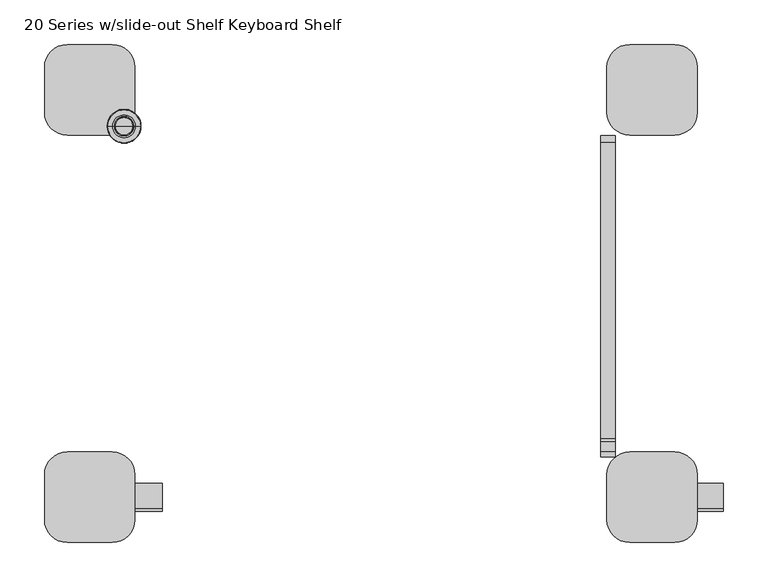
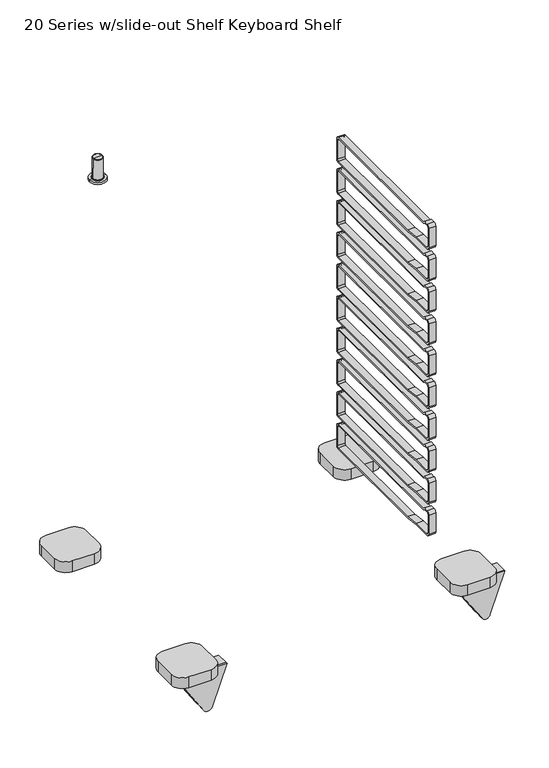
"""IFC4 building model written with IfcOpenShell, lengths in millimetres: furniture geometry, HermanMiller_Carts_CTT_StorageandTechnologyCart : 20 Series w/slide-out Shelf Keyboard Shelf."""

from ifc_helpers import new_model, si_unit, point, frame, frame_2d, origin, place, context, project, spatial, polyline, circle_curve, ellipse_curve, trimmed, segment, composite_curve, outline, extrude, source, transform, mapped, element, save
from ifc_brep_helpers import plane_surface, cylinder_surface, revolved_surface, advanced_brep


def furniture_20_series_w_slide_out_shelf_keyboard_shelf_f1be6787(model_context):
    return source(origin(), model_context, "Body", "SolidModel", [
        advanced_brep(
        [(101.600003, 17.1449995, 147.6537872), (-12.7000004, 17.1449995, 147.6537872), (49.8568056, 17.1449995, 52.1364958), (67.594555, 17.1449995, 54.1932208), (101.600003, 20.1029431, 147.6537872), (67.594555, 20.1029431, 54.1932208), (49.8568056, 20.1029431, 52.1364958), (-12.7000004, 20.1029431, 147.6537872)],
        [
            (0, 1),
            (1, 2),
            (2, 3, circle_curve(frame((58.2105388, 17.1449995, 57.6075771), z_axis=(0.0, -1.0, 0.0), x_axis=(1.0, 0.0, 0.0)), 9.9858695)),
            (3, 0),
            (4, 5),
            (5, 6, circle_curve(frame((58.2105388, 20.1029431, 57.6075771), z_axis=(0.0, 1.0, 0.0), x_axis=(1.0, 0.0, 0.0)), 9.9858695)),
            (6, 7),
            (7, 4),
            (0, 4),
            (7, 1),
            (6, 2),
            (5, 3),
        ],
        [
            plane_surface(frame((101.600003, 17.1449995, 147.6537872), z_axis=(0.0, -1.0, 0.0), x_axis=(-1.0, 0.0, 0.0))),
            plane_surface(frame((101.600003, 20.1029431, 147.6537872), z_axis=(0.0, 1.0, 0.0), x_axis=(1.0, 0.0, 0.0))),
            plane_surface(frame((101.600003, 17.1449995, 147.6537872), z_axis=(0.0, 0.0, 1.0), x_axis=(0.0, 1.0, 0.0))),
            plane_surface(frame((-12.7000004, 17.1449995, 147.6537872), z_axis=(-0.8365554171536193, 0.0, -0.5478823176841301), x_axis=(0.0, 1.0, 0.0))),
            cylinder_surface(frame((58.2105388, 20.1029431, 57.6075771), z_axis=(0.0, -1.0, 0.0), x_axis=(1.0, 0.0, 0.0)), 9.9858695),
            plane_surface(frame((67.594555, 17.1449995, 54.1932208), z_axis=(0.9397295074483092, 0.0, -0.34191878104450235), x_axis=(0.0, 1.0, 0.0))),
        ],
        [
            (0, [[1, 2, 3, 4]]),
            (1, [[5, 6, 7, 8]]),
            (2, [[-1, 9, -8, 10]]),
            (3, [[-2, -10, -7, 11]]),
            (4, [[-3, -11, -6, 12]]),
            (5, [[-4, -12, -5, -9]]),
        ],
    ),
        advanced_brep(
        [(731.7848239, 17.1449995, 147.6537872), (617.4848205, 17.1449995, 147.6537872), (680.0416266, 17.1449995, 52.1364958), (697.7793759, 17.1449995, 54.1932208), (731.7848239, 20.1029431, 147.6537872), (697.7793759, 20.1029431, 54.1932208), (680.0416266, 20.1029431, 52.1364958), (617.4848205, 20.1029431, 147.6537872)],
        [
            (0, 1),
            (1, 2),
            (2, 3, circle_curve(frame((688.3953597, 17.1449995, 57.6075771), z_axis=(0.0, -1.0, 0.0), x_axis=(1.0, 0.0, 0.0)), 9.9858695)),
            (3, 0),
            (4, 5),
            (5, 6, circle_curve(frame((688.3953597, 20.1029431, 57.6075771), z_axis=(0.0, 1.0, 0.0), x_axis=(1.0, 0.0, 0.0)), 9.9858695)),
            (6, 7),
            (7, 4),
            (0, 4),
            (7, 1),
            (6, 2),
            (5, 3),
        ],
        [
            plane_surface(frame((101.600003, 17.1449995, 147.6537872), z_axis=(0.0, -1.0, 0.0), x_axis=(-1.0, 0.0, 0.0))),
            plane_surface(frame((101.600003, 20.1029431, 147.6537872), z_axis=(0.0, 1.0, 0.0), x_axis=(1.0, 0.0, 0.0))),
            plane_surface(frame((731.7848239, 17.1449995, 147.6537872), z_axis=(0.0, 0.0, 1.0), x_axis=(0.0, 1.0, 0.0))),
            plane_surface(frame((617.4848205, 17.1449995, 147.6537872), z_axis=(-0.8365554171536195, 0.0, -0.5478823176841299), x_axis=(0.0, 1.0, 0.0))),
            cylinder_surface(frame((688.3953597, -28.5750023, 57.6075771), z_axis=(0.0, -1.0, 0.0), x_axis=(1.0, 0.0, 0.0)), 9.9858695),
            plane_surface(frame((697.7793759, 17.1449995, 54.1932208), z_axis=(0.9397295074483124, 0.0, -0.3419187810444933), x_axis=(0.0, 1.0, 0.0))),
        ],
        [
            (0, [[1, 2, 3, 4]]),
            (1, [[5, 6, 7, 8]]),
            (2, [[-1, 9, -8, 10]]),
            (3, [[-2, -10, -7, 11]]),
            (4, [[-3, -11, -6, 12]]),
            (5, [[-4, -12, -5, -9]]),
        ],
    ),
        advanced_brep(
        [(49.8568056, 45.7200018, 52.1364958), (67.594555, 45.7200018, 54.1932208), (100.6758289, 45.7200018, 145.1137872), (-11.036487, 45.7200018, 145.1137872), (101.600003, 48.6779454, 147.6537872), (67.594555, 48.6779454, 54.1932208), (49.8568056, 48.6779454, 52.1364958), (-12.7000004, 48.6779454, 147.6537872), (-12.7000004, 20.3200011, 147.6537872), (101.600003, 20.3200011, 147.6537872), (-11.036487, 20.3200011, 145.1137872), (100.6758289, 20.3200011, 145.1137872)],
        [
            (0, 1, circle_curve(frame((58.2105388, 45.7200018, 57.6075771), z_axis=(0.0, -1.0, 0.0), x_axis=(1.0, 0.0, 0.0)), 9.9858695)),
            (1, 2),
            (2, 3),
            (3, 0),
            (4, 5),
            (5, 6, circle_curve(frame((58.2105388, 48.6779454, 57.6075771), z_axis=(0.0, 1.0, 0.0), x_axis=(1.0, 0.0, 0.0)), 9.9858695)),
            (6, 7),
            (7, 4),
            (7, 8),
            (8, 9),
            (9, 4),
            (6, 0),
            (3, 10),
            (10, 8),
            (5, 1),
            (9, 11),
            (11, 2),
            (10, 11),
        ],
        [
            plane_surface(frame((101.600003, 45.7200018, 147.6537872), z_axis=(0.0, -1.0, 0.0), x_axis=(-1.0, 0.0, 0.0))),
            plane_surface(frame((101.600003, 48.6779454, 147.6537872), z_axis=(0.0, 1.0, 0.0), x_axis=(1.0, 0.0, 0.0))),
            plane_surface(frame((101.600003, 45.7200018, 147.6537872), z_axis=(0.0, 0.0, 1.0), x_axis=(0.0, 1.0, 0.0))),
            plane_surface(frame((-12.7000004, 45.7200018, 147.6537872), z_axis=(-0.8365554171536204, 0.0, -0.5478823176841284), x_axis=(0.0, 1.0, 0.0))),
            cylinder_surface(frame((58.2105388, 48.6779454, 57.6075771), z_axis=(0.0, -1.0, 0.0), x_axis=(1.0, 0.0, 0.0)), 9.9858695),
            plane_surface(frame((67.594555, 45.7200018, 54.1932208), z_axis=(0.9397295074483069, 0.0, -0.34191878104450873), x_axis=(0.0, 1.0, 0.0))),
            plane_surface(frame((101.600003, 20.3200011, 147.6537872), z_axis=(0.0, -1.0, 0.0), x_axis=(-1.0, 0.0, 0.0))),
            plane_surface(frame((-11.036487, 20.3200011, 145.1137872), z_axis=(0.0, 0.0, -1.0), x_axis=(0.0, 1.0, 0.0))),
        ],
        [
            (0, [[1, 2, 3, 4]]),
            (1, [[5, 6, 7, 8]]),
            (2, [[-8, 9, 10, 11]]),
            (3, [[-9, -7, 12, -4, 13, 14]]),
            (4, [[-1, -12, -6, 15]]),
            (5, [[-5, -11, 16, 17, -2, -15]]),
            (6, [[-10, -14, 18, -16]]),
            (7, [[-18, -13, -3, -17]]),
        ],
    ),
        advanced_brep(
        [(680.0416266, 45.7200018, 52.1364958), (697.7793759, 45.7200018, 54.1932208), (730.8606498, 45.7200018, 145.1137872), (619.1483339, 45.7200018, 145.1137872), (731.7848239, 48.6779454, 147.6537872), (697.7793759, 48.6779454, 54.1932208), (680.0416266, 48.6779454, 52.1364958), (617.4848205, 48.6779454, 147.6537872), (617.4848205, 20.3200011, 147.6537872), (731.7848239, 20.3200011, 147.6537872), (619.1483339, 20.3200011, 145.1137872), (730.8606498, 20.3200011, 145.1137872)],
        [
            (0, 1, circle_curve(frame((688.3953597, 45.7200018, 57.6075771), z_axis=(0.0, -1.0, 0.0), x_axis=(1.0, 0.0, 0.0)), 9.9858695)),
            (1, 2),
            (2, 3),
            (3, 0),
            (4, 5),
            (5, 6, circle_curve(frame((688.3953597, 48.6779454, 57.6075771), z_axis=(0.0, 1.0, 0.0), x_axis=(1.0, 0.0, 0.0)), 9.9858695)),
            (6, 7),
            (7, 4),
            (7, 8),
            (8, 9),
            (9, 4),
            (6, 0),
            (3, 10),
            (10, 8),
            (5, 1),
            (9, 11),
            (11, 2),
            (10, 11),
        ],
        [
            plane_surface(frame((101.600003, 45.7200018, 147.6537872), z_axis=(0.0, -1.0, 0.0), x_axis=(-1.0, 0.0, 0.0))),
            plane_surface(frame((101.600003, 48.6779454, 147.6537872), z_axis=(0.0, 1.0, 0.0), x_axis=(1.0, 0.0, 0.0))),
            plane_surface(frame((731.7848239, 45.7200018, 147.6537872), z_axis=(0.0, 0.0, 1.0), x_axis=(0.0, 1.0, 0.0))),
            plane_surface(frame((617.4848205, 45.7200018, 147.6537872), z_axis=(-0.8365554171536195, 0.0, -0.5478823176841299), x_axis=(0.0, 1.0, 0.0))),
            cylinder_surface(frame((688.3953597, 0.0, 57.6075771), z_axis=(0.0, -1.0, 0.0), x_axis=(1.0, 0.0, 0.0)), 9.9858695),
            plane_surface(frame((697.7793759, 45.7200018, 54.1932208), z_axis=(0.9397295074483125, 0.0, -0.3419187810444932), x_axis=(0.0, 1.0, 0.0))),
            plane_surface(frame((101.600003, 20.3200011, 147.6537872), z_axis=(0.0, -1.0, 0.0), x_axis=(-1.0, 0.0, 0.0))),
            plane_surface(frame((619.1483339, 20.3200011, 145.1137872), z_axis=(0.0, 0.0, -1.0), x_axis=(0.0, 1.0, 0.0))),
        ],
        [
            (0, [[1, 2, 3, 4]]),
            (1, [[5, 6, 7, 8]]),
            (2, [[-8, 9, 10, 11]]),
            (3, [[-9, -7, 12, -4, 13, 14]]),
            (4, [[-1, -12, -6, 15]]),
            (5, [[-5, -11, 16, 17, -2, -15]]),
            (6, [[-10, -14, 18, -16]]),
            (7, [[-18, -13, -3, -17]]),
        ],
    ),
        extrude(outline(composite_curve([segment(trimmed(circle_curve(frame_2d((432.0829157, 288.6580583)), 7.0967816), [point((432.0829157, 295.7548399))], [point((439.1796973, 288.6580583))], False, "CARTESIAN"), True, "CONTINUOUS"), segment(polyline([(439.1796973, 288.6580583), (439.1796973, 241.5674195)]), True, "CONTINUOUS"), segment(trimmed(circle_curve(frame_2d((432.8296973, 241.5674195)), 6.35), [point((439.1796973, 241.5674195))], [point((432.8296973, 235.2174195))], False, "CARTESIAN"), True, "CONTINUOUS"), segment(polyline([(432.8296973, 235.2174195), (160.5389836, 235.2174195), (125.9538762, 240.0780421), (84.6788762, 240.0780421)]), True, "CONTINUOUS"), segment(trimmed(circle_curve(frame_2d((84.6788762, 246.4280421)), 6.35), [point((84.6788762, 240.0780421))], [point((78.3288762, 246.4280421))], False, "CARTESIAN"), True, "CONTINUOUS"), segment(polyline([(78.3288762, 246.4280421), (78.3288762, 292.452837)]), True, "CONTINUOUS"), segment(trimmed(circle_curve(frame_2d((84.6788762, 292.452837)), 6.35), [point((78.3288762, 292.452837))], [point((84.6788762, 298.802837))], False, "CARTESIAN"), True, "CONTINUOUS"), segment(polyline([(84.6788762, 298.802837), (95.8548777, 298.802837), (98.9028748, 295.7548399), (432.0829157, 295.7548399)]), True, "CONTINUOUS")], self_intersect=False), holes=[composite_curve([segment(polyline([(98.9028748, 291.7670382), (93.351533, 294.8150353), (86.3017102, 294.8150353)]), True, "CONTINUOUS"), segment(trimmed(circle_curve(frame_2d((86.3017102, 290.8300031)), 3.9850323), [point((86.3017102, 294.8150353))], [point((82.3166779, 290.8300031))], True, "CARTESIAN"), True, "CONTINUOUS"), segment(polyline([(82.3166779, 290.8300031), (82.3166779, 248.1093011)]), True, "CONTINUOUS"), segment(trimmed(circle_curve(frame_2d((86.3601352, 248.1093011)), 4.0434573), [point((82.3166779, 248.1093011))], [point((86.3601352, 244.0658438))], True, "CARTESIAN"), True, "CONTINUOUS"), segment(polyline([(86.3601352, 244.0658438), (126.2327291, 244.0658438), (160.8178365, 239.2052211), (431.735191, 239.2052211)]), True, "CONTINUOUS"), segment(trimmed(circle_curve(frame_2d((431.735191, 242.6619258)), 3.4567047), [point((431.735191, 239.2052211))], [point((435.1918957, 242.6619258))], True, "CARTESIAN"), True, "CONTINUOUS"), segment(polyline([(435.1918957, 242.6619258), (435.1918957, 287.9663635)]), True, "CONTINUOUS"), segment(trimmed(circle_curve(frame_2d((431.3912209, 287.9663635)), 3.8006747), [point((435.1918957, 287.9663635))], [point((431.3912209, 291.7670382))], True, "CARTESIAN"), True, "CONTINUOUS"), segment(polyline([(431.3912209, 291.7670382), (98.9028748, 291.7670382)]), True, "CONTINUOUS")], self_intersect=False)]), frame((594.2224574, 0.0, 0.0), z_axis=(1.0, 0.0, 0.0), x_axis=(0.0, 1.0, 0.0)), (0.0, 0.0, 1.0), 15.9147989),
        extrude(outline(composite_curve([segment(polyline([(160.5389836, 311.4174013), (125.9538762, 316.278024), (84.6788762, 316.278024)]), True, "CONTINUOUS"), segment(trimmed(circle_curve(frame_2d((84.6788762, 322.628024)), 6.35), [point((84.6788762, 316.278024))], [point((78.3288762, 322.628024))], False, "CARTESIAN"), True, "CONTINUOUS"), segment(polyline([(78.3288762, 322.628024), (78.3288762, 368.6528188)]), True, "CONTINUOUS"), segment(trimmed(circle_curve(frame_2d((84.6788762, 368.6528188)), 6.35), [point((78.3288762, 368.6528188))], [point((84.6788762, 375.0028188))], False, "CARTESIAN"), True, "CONTINUOUS"), segment(polyline([(84.6788762, 375.0028188), (95.8548777, 375.0028188), (98.9028748, 371.9548217), (432.0829157, 371.9548217)]), True, "CONTINUOUS"), segment(trimmed(circle_curve(frame_2d((432.0829157, 364.8580401)), 7.0967816), [point((432.0829157, 371.9548217))], [point((439.1796973, 364.8580401))], False, "CARTESIAN"), True, "CONTINUOUS"), segment(polyline([(439.1796973, 364.8580401), (439.1796973, 317.7674013)]), True, "CONTINUOUS"), segment(trimmed(circle_curve(frame_2d((432.8296973, 317.7674013)), 6.35), [point((439.1796973, 317.7674013))], [point((432.8296973, 311.4174013))], False, "CARTESIAN"), True, "CONTINUOUS"), segment(polyline([(432.8296973, 311.4174013), (160.5389836, 311.4174013)]), True, "CONTINUOUS")], self_intersect=False), holes=[composite_curve([segment(polyline([(98.9028748, 367.9670201), (93.351533, 371.0150172), (86.3017102, 371.0150172)]), True, "CONTINUOUS"), segment(trimmed(circle_curve(frame_2d((86.3017102, 367.0299849)), 3.9850323), [point((86.3017102, 371.0150172))], [point((82.3166779, 367.0299849))], True, "CARTESIAN"), True, "CONTINUOUS"), segment(polyline([(82.3166779, 367.0299849), (82.3166779, 324.3092829)]), True, "CONTINUOUS"), segment(trimmed(circle_curve(frame_2d((86.3601352, 324.3092829)), 4.0434573), [point((82.3166779, 324.3092829))], [point((86.3601352, 320.2658256))], True, "CARTESIAN"), True, "CONTINUOUS"), segment(polyline([(86.3601352, 320.2658256), (126.2327291, 320.2658256), (160.8178365, 315.405203), (431.735191, 315.405203)]), True, "CONTINUOUS"), segment(trimmed(circle_curve(frame_2d((431.735191, 318.8619076)), 3.4567047), [point((431.735191, 315.405203))], [point((435.1918957, 318.8619076))], True, "CARTESIAN"), True, "CONTINUOUS"), segment(polyline([(435.1918957, 318.8619076), (435.1918957, 364.1663454)]), True, "CONTINUOUS"), segment(trimmed(circle_curve(frame_2d((431.3912209, 364.1663454)), 3.8006747), [point((435.1918957, 364.1663454))], [point((431.3912209, 367.9670201))], True, "CARTESIAN"), True, "CONTINUOUS"), segment(polyline([(431.3912209, 367.9670201), (98.9028748, 367.9670201)]), True, "CONTINUOUS")], self_intersect=False)]), frame((594.2224574, 0.0, 0.0), z_axis=(1.0, 0.0, 0.0), x_axis=(0.0, 1.0, 0.0)), (0.0, 0.0, 1.0), 15.9147989),
        extrude(outline(composite_curve([segment(polyline([(432.8296973, 387.6174013), (160.5389836, 387.6174013), (125.9538762, 392.478024), (84.6788762, 392.478024)]), True, "CONTINUOUS"), segment(trimmed(circle_curve(frame_2d((84.6788762, 398.828024)), 6.35), [point((84.6788762, 392.478024))], [point((78.3288762, 398.828024))], False, "CARTESIAN"), True, "CONTINUOUS"), segment(polyline([(78.3288762, 398.828024), (78.3288762, 444.8528188)]), True, "CONTINUOUS"), segment(trimmed(circle_curve(frame_2d((84.6788762, 444.8528188)), 6.35), [point((78.3288762, 444.8528188))], [point((84.6788762, 451.2028188))], False, "CARTESIAN"), True, "CONTINUOUS"), segment(polyline([(84.6788762, 451.2028188), (95.8548777, 451.2028188), (98.9028748, 448.1548217), (432.0829157, 448.1548217)]), True, "CONTINUOUS"), segment(trimmed(circle_curve(frame_2d((432.0829157, 441.0580401)), 7.0967816), [point((432.0829157, 448.1548217))], [point((439.1796973, 441.0580401))], False, "CARTESIAN"), True, "CONTINUOUS"), segment(polyline([(439.1796973, 441.0580401), (439.1796973, 393.9674013)]), True, "CONTINUOUS"), segment(trimmed(circle_curve(frame_2d((432.8296973, 393.9674013)), 6.35), [point((439.1796973, 393.9674013))], [point((432.8296973, 387.6174013))], False, "CARTESIAN"), True, "CONTINUOUS")], self_intersect=False), holes=[composite_curve([segment(polyline([(98.9028748, 444.1670201), (93.351533, 447.2150172), (86.3017102, 447.2150172)]), True, "CONTINUOUS"), segment(trimmed(circle_curve(frame_2d((86.3017102, 443.2299849)), 3.9850323), [point((86.3017102, 447.2150172))], [point((82.3166779, 443.2299849))], True, "CARTESIAN"), True, "CONTINUOUS"), segment(polyline([(82.3166779, 443.2299849), (82.3166779, 400.5092829)]), True, "CONTINUOUS"), segment(trimmed(circle_curve(frame_2d((86.3601352, 400.5092829)), 4.0434573), [point((82.3166779, 400.5092829))], [point((86.3601352, 396.4658256))], True, "CARTESIAN"), True, "CONTINUOUS"), segment(polyline([(86.3601352, 396.4658256), (126.2327291, 396.4658256), (160.8178365, 391.605203), (431.735191, 391.605203)]), True, "CONTINUOUS"), segment(trimmed(circle_curve(frame_2d((431.735191, 395.0619076)), 3.4567047), [point((431.735191, 391.605203))], [point((435.1918957, 395.0619076))], True, "CARTESIAN"), True, "CONTINUOUS"), segment(polyline([(435.1918957, 395.0619076), (435.1918957, 440.3663454)]), True, "CONTINUOUS"), segment(trimmed(circle_curve(frame_2d((431.3912209, 440.3663454)), 3.8006747), [point((435.1918957, 440.3663454))], [point((431.3912209, 444.1670201))], True, "CARTESIAN"), True, "CONTINUOUS"), segment(polyline([(431.3912209, 444.1670201), (98.9028748, 444.1670201)]), True, "CONTINUOUS")], self_intersect=False)]), frame((594.2224574, 0.0, 0.0), z_axis=(1.0, 0.0, 0.0), x_axis=(0.0, 1.0, 0.0)), (0.0, 0.0, 1.0), 15.9147989),
        extrude(outline(composite_curve([segment(polyline([(160.5389836, 463.8174013), (125.9538762, 468.678024), (84.6788762, 468.678024)]), True, "CONTINUOUS"), segment(trimmed(circle_curve(frame_2d((84.6788762, 475.028024)), 6.35), [point((84.6788762, 468.678024))], [point((78.3288762, 475.028024))], False, "CARTESIAN"), True, "CONTINUOUS"), segment(polyline([(78.3288762, 475.028024), (78.3288762, 521.0528188)]), True, "CONTINUOUS"), segment(trimmed(circle_curve(frame_2d((84.6788762, 521.0528188)), 6.35), [point((78.3288762, 521.0528188))], [point((84.6788762, 527.4028188))], False, "CARTESIAN"), True, "CONTINUOUS"), segment(polyline([(84.6788762, 527.4028188), (95.8548777, 527.4028188), (98.9028748, 524.3548217), (432.0829157, 524.3548217)]), True, "CONTINUOUS"), segment(trimmed(circle_curve(frame_2d((432.0829157, 517.2580401)), 7.0967816), [point((432.0829157, 524.3548217))], [point((439.1796973, 517.2580401))], False, "CARTESIAN"), True, "CONTINUOUS"), segment(polyline([(439.1796973, 517.2580401), (439.1796973, 470.1674013)]), True, "CONTINUOUS"), segment(trimmed(circle_curve(frame_2d((432.8296973, 470.1674013)), 6.35), [point((439.1796973, 470.1674013))], [point((432.8296973, 463.8174013))], False, "CARTESIAN"), True, "CONTINUOUS"), segment(polyline([(432.8296973, 463.8174013), (160.5389836, 463.8174013)]), True, "CONTINUOUS")], self_intersect=False), holes=[composite_curve([segment(polyline([(98.9028748, 520.3670201), (93.351533, 523.4150172), (86.3017102, 523.4150172)]), True, "CONTINUOUS"), segment(trimmed(circle_curve(frame_2d((86.3017102, 519.4299849)), 3.9850323), [point((86.3017102, 523.4150172))], [point((82.3166779, 519.4299849))], True, "CARTESIAN"), True, "CONTINUOUS"), segment(polyline([(82.3166779, 519.4299849), (82.3166779, 476.7092829)]), True, "CONTINUOUS"), segment(trimmed(circle_curve(frame_2d((86.3601352, 476.7092829)), 4.0434573), [point((82.3166779, 476.7092829))], [point((86.3601352, 472.6658256))], True, "CARTESIAN"), True, "CONTINUOUS"), segment(polyline([(86.3601352, 472.6658256), (126.2327291, 472.6658256), (160.8178365, 467.805203), (431.735191, 467.805203)]), True, "CONTINUOUS"), segment(trimmed(circle_curve(frame_2d((431.735191, 471.2619076)), 3.4567047), [point((431.735191, 467.805203))], [point((435.1918957, 471.2619076))], True, "CARTESIAN"), True, "CONTINUOUS"), segment(polyline([(435.1918957, 471.2619076), (435.1918957, 516.5663454)]), True, "CONTINUOUS"), segment(trimmed(circle_curve(frame_2d((431.3912209, 516.5663454)), 3.8006747), [point((435.1918957, 516.5663454))], [point((431.3912209, 520.3670201))], True, "CARTESIAN"), True, "CONTINUOUS"), segment(polyline([(431.3912209, 520.3670201), (98.9028748, 520.3670201)]), True, "CONTINUOUS")], self_intersect=False)]), frame((594.2224574, 0.0, 0.0), z_axis=(1.0, 0.0, 0.0), x_axis=(0.0, 1.0, 0.0)), (0.0, 0.0, 1.0), 15.9147989),
        extrude(outline(composite_curve([segment(polyline([(432.8296973, 540.0174013), (160.5389836, 540.0174013), (125.9538762, 544.878024), (84.6788762, 544.878024)]), True, "CONTINUOUS"), segment(trimmed(circle_curve(frame_2d((84.6788762, 551.228024)), 6.35), [point((84.6788762, 544.878024))], [point((78.3288762, 551.228024))], False, "CARTESIAN"), True, "CONTINUOUS"), segment(polyline([(78.3288762, 551.228024), (78.3288762, 597.2528188)]), True, "CONTINUOUS"), segment(trimmed(circle_curve(frame_2d((84.6788762, 597.2528188)), 6.35), [point((78.3288762, 597.2528188))], [point((84.6788762, 603.6028188))], False, "CARTESIAN"), True, "CONTINUOUS"), segment(polyline([(84.6788762, 603.6028188), (95.8548777, 603.6028188), (98.9028748, 600.5548217), (432.0829157, 600.5548217)]), True, "CONTINUOUS"), segment(trimmed(circle_curve(frame_2d((432.0829157, 593.4580401)), 7.0967816), [point((432.0829157, 600.5548217))], [point((439.1796973, 593.4580401))], False, "CARTESIAN"), True, "CONTINUOUS"), segment(polyline([(439.1796973, 593.4580401), (439.1796973, 546.3674013)]), True, "CONTINUOUS"), segment(trimmed(circle_curve(frame_2d((432.8296973, 546.3674013)), 6.35), [point((439.1796973, 546.3674013))], [point((432.8296973, 540.0174013))], False, "CARTESIAN"), True, "CONTINUOUS")], self_intersect=False), holes=[composite_curve([segment(polyline([(98.9028748, 596.5670201), (93.351533, 599.6150172), (86.3017102, 599.6150172)]), True, "CONTINUOUS"), segment(trimmed(circle_curve(frame_2d((86.3017102, 595.6299849)), 3.9850323), [point((86.3017102, 599.6150172))], [point((82.3166779, 595.6299849))], True, "CARTESIAN"), True, "CONTINUOUS"), segment(polyline([(82.3166779, 595.6299849), (82.3166779, 552.9092829)]), True, "CONTINUOUS"), segment(trimmed(circle_curve(frame_2d((86.3601352, 552.9092829)), 4.0434573), [point((82.3166779, 552.9092829))], [point((86.3601352, 548.8658256))], True, "CARTESIAN"), True, "CONTINUOUS"), segment(polyline([(86.3601352, 548.8658256), (126.2327291, 548.8658256), (160.8178365, 544.005203), (431.735191, 544.005203)]), True, "CONTINUOUS"), segment(trimmed(circle_curve(frame_2d((431.735191, 547.4619076)), 3.4567047), [point((431.735191, 544.005203))], [point((435.1918957, 547.4619076))], True, "CARTESIAN"), True, "CONTINUOUS"), segment(polyline([(435.1918957, 547.4619076), (435.1918957, 592.7663454)]), True, "CONTINUOUS"), segment(trimmed(circle_curve(frame_2d((431.3912209, 592.7663454)), 3.8006747), [point((435.1918957, 592.7663454))], [point((431.3912209, 596.5670201))], True, "CARTESIAN"), True, "CONTINUOUS"), segment(polyline([(431.3912209, 596.5670201), (98.9028748, 596.5670201)]), True, "CONTINUOUS")], self_intersect=False)]), frame((594.2224574, 0.0, 0.0), z_axis=(1.0, 0.0, 0.0), x_axis=(0.0, 1.0, 0.0)), (0.0, 0.0, 1.0), 15.9147989),
        extrude(outline(composite_curve([segment(polyline([(160.5389836, 616.2174013), (125.9538762, 621.078024), (84.6788762, 621.078024)]), True, "CONTINUOUS"), segment(trimmed(circle_curve(frame_2d((84.6788762, 627.428024)), 6.35), [point((84.6788762, 621.078024))], [point((78.3288762, 627.428024))], False, "CARTESIAN"), True, "CONTINUOUS"), segment(polyline([(78.3288762, 627.428024), (78.3288762, 673.4528188)]), True, "CONTINUOUS"), segment(trimmed(circle_curve(frame_2d((84.6788762, 673.4528188)), 6.35), [point((78.3288762, 673.4528188))], [point((84.6788762, 679.8028188))], False, "CARTESIAN"), True, "CONTINUOUS"), segment(polyline([(84.6788762, 679.8028188), (95.8548777, 679.8028188), (98.9028748, 676.7548217), (432.0829157, 676.7548217)]), True, "CONTINUOUS"), segment(trimmed(circle_curve(frame_2d((432.0829157, 669.6580401)), 7.0967816), [point((432.0829157, 676.7548217))], [point((439.1796973, 669.6580401))], False, "CARTESIAN"), True, "CONTINUOUS"), segment(polyline([(439.1796973, 669.6580401), (439.1796973, 622.5674013)]), True, "CONTINUOUS"), segment(trimmed(circle_curve(frame_2d((432.8296973, 622.5674013)), 6.35), [point((439.1796973, 622.5674013))], [point((432.8296973, 616.2174013))], False, "CARTESIAN"), True, "CONTINUOUS"), segment(polyline([(432.8296973, 616.2174013), (160.5389836, 616.2174013)]), True, "CONTINUOUS")], self_intersect=False), holes=[composite_curve([segment(polyline([(98.9028748, 672.7670201), (93.351533, 675.8150172), (86.3017102, 675.8150172)]), True, "CONTINUOUS"), segment(trimmed(circle_curve(frame_2d((86.3017102, 671.8299849)), 3.9850323), [point((86.3017102, 675.8150172))], [point((82.3166779, 671.8299849))], True, "CARTESIAN"), True, "CONTINUOUS"), segment(polyline([(82.3166779, 671.8299849), (82.3166779, 629.1092829)]), True, "CONTINUOUS"), segment(trimmed(circle_curve(frame_2d((86.3601352, 629.1092829)), 4.0434573), [point((82.3166779, 629.1092829))], [point((86.3601352, 625.0658256))], True, "CARTESIAN"), True, "CONTINUOUS"), segment(polyline([(86.3601352, 625.0658256), (126.2327291, 625.0658256), (160.8178365, 620.205203), (431.735191, 620.205203)]), True, "CONTINUOUS"), segment(trimmed(circle_curve(frame_2d((431.735191, 623.6619076)), 3.4567047), [point((431.735191, 620.205203))], [point((435.1918957, 623.6619076))], True, "CARTESIAN"), True, "CONTINUOUS"), segment(polyline([(435.1918957, 623.6619076), (435.1918957, 668.9663454)]), True, "CONTINUOUS"), segment(trimmed(circle_curve(frame_2d((431.3912209, 668.9663454)), 3.8006747), [point((435.1918957, 668.9663454))], [point((431.3912209, 672.7670201))], True, "CARTESIAN"), True, "CONTINUOUS"), segment(polyline([(431.3912209, 672.7670201), (98.9028748, 672.7670201)]), True, "CONTINUOUS")], self_intersect=False)]), frame((594.2224574, 0.0, 0.0), z_axis=(1.0, 0.0, 0.0), x_axis=(0.0, 1.0, 0.0)), (0.0, 0.0, 1.0), 15.9147989),
        extrude(outline(composite_curve([segment(polyline([(432.8296973, 692.4174013), (160.5389836, 692.4174013), (125.9538762, 697.278024), (84.6788762, 697.278024)]), True, "CONTINUOUS"), segment(trimmed(circle_curve(frame_2d((84.6788762, 703.628024)), 6.35), [point((84.6788762, 697.278024))], [point((78.3288762, 703.628024))], False, "CARTESIAN"), True, "CONTINUOUS"), segment(polyline([(78.3288762, 703.628024), (78.3288762, 749.6528188)]), True, "CONTINUOUS"), segment(trimmed(circle_curve(frame_2d((84.6788762, 749.6528188)), 6.35), [point((78.3288762, 749.6528188))], [point((84.6788762, 756.0028188))], False, "CARTESIAN"), True, "CONTINUOUS"), segment(polyline([(84.6788762, 756.0028188), (95.8548777, 756.0028188), (98.9028748, 752.9548217), (432.0829157, 752.9548217)]), True, "CONTINUOUS"), segment(trimmed(circle_curve(frame_2d((432.0829157, 745.8580401)), 7.0967816), [point((432.0829157, 752.9548217))], [point((439.1796973, 745.8580401))], False, "CARTESIAN"), True, "CONTINUOUS"), segment(polyline([(439.1796973, 745.8580401), (439.1796973, 698.7674013)]), True, "CONTINUOUS"), segment(trimmed(circle_curve(frame_2d((432.8296973, 698.7674013)), 6.35), [point((439.1796973, 698.7674013))], [point((432.8296973, 692.4174013))], False, "CARTESIAN"), True, "CONTINUOUS")], self_intersect=False), holes=[composite_curve([segment(polyline([(98.9028748, 748.9670201), (93.351533, 752.0150172), (86.3017102, 752.0150172)]), True, "CONTINUOUS"), segment(trimmed(circle_curve(frame_2d((86.3017102, 748.0299849)), 3.9850323), [point((86.3017102, 752.0150172))], [point((82.3166779, 748.0299849))], True, "CARTESIAN"), True, "CONTINUOUS"), segment(polyline([(82.3166779, 748.0299849), (82.3166779, 705.3092829)]), True, "CONTINUOUS"), segment(trimmed(circle_curve(frame_2d((86.3601352, 705.3092829)), 4.0434573), [point((82.3166779, 705.3092829))], [point((86.3601352, 701.2658256))], True, "CARTESIAN"), True, "CONTINUOUS"), segment(polyline([(86.3601352, 701.2658256), (126.2327291, 701.2658256), (160.8178365, 696.405203), (431.735191, 696.405203)]), True, "CONTINUOUS"), segment(trimmed(circle_curve(frame_2d((431.735191, 699.8619076)), 3.4567047), [point((431.735191, 696.405203))], [point((435.1918957, 699.8619076))], True, "CARTESIAN"), True, "CONTINUOUS"), segment(polyline([(435.1918957, 699.8619076), (435.1918957, 745.1663454)]), True, "CONTINUOUS"), segment(trimmed(circle_curve(frame_2d((431.3912209, 745.1663454)), 3.8006747), [point((435.1918957, 745.1663454))], [point((431.3912209, 748.9670201))], True, "CARTESIAN"), True, "CONTINUOUS"), segment(polyline([(431.3912209, 748.9670201), (98.9028748, 748.9670201)]), True, "CONTINUOUS")], self_intersect=False)]), frame((594.2224574, 0.0, 0.0), z_axis=(1.0, 0.0, 0.0), x_axis=(0.0, 1.0, 0.0)), (0.0, 0.0, 1.0), 15.9147989),
        extrude(outline(composite_curve([segment(polyline([(160.5389836, 768.6174013), (125.9538762, 773.478024), (84.6788762, 773.478024)]), True, "CONTINUOUS"), segment(trimmed(circle_curve(frame_2d((84.6788762, 779.828024)), 6.35), [point((84.6788762, 773.478024))], [point((78.3288762, 779.828024))], False, "CARTESIAN"), True, "CONTINUOUS"), segment(polyline([(78.3288762, 779.828024), (78.3288762, 825.8528188)]), True, "CONTINUOUS"), segment(trimmed(circle_curve(frame_2d((84.6788762, 825.8528188)), 6.35), [point((78.3288762, 825.8528188))], [point((84.6788762, 832.2028188))], False, "CARTESIAN"), True, "CONTINUOUS"), segment(polyline([(84.6788762, 832.2028188), (95.8548777, 832.2028188), (98.9028748, 829.1548217), (432.0829157, 829.1548217)]), True, "CONTINUOUS"), segment(trimmed(circle_curve(frame_2d((432.0829157, 822.0580401)), 7.0967816), [point((432.0829157, 829.1548217))], [point((439.1796973, 822.0580401))], False, "CARTESIAN"), True, "CONTINUOUS"), segment(polyline([(439.1796973, 822.0580401), (439.1796973, 774.9674013)]), True, "CONTINUOUS"), segment(trimmed(circle_curve(frame_2d((432.8296973, 774.9674013)), 6.35), [point((439.1796973, 774.9674013))], [point((432.8296973, 768.6174013))], False, "CARTESIAN"), True, "CONTINUOUS"), segment(polyline([(432.8296973, 768.6174013), (160.5389836, 768.6174013)]), True, "CONTINUOUS")], self_intersect=False), holes=[composite_curve([segment(polyline([(98.9028748, 825.1670201), (93.351533, 828.2150172), (86.3017102, 828.2150172)]), True, "CONTINUOUS"), segment(trimmed(circle_curve(frame_2d((86.3017102, 824.2299849)), 3.9850323), [point((86.3017102, 828.2150172))], [point((82.3166779, 824.2299849))], True, "CARTESIAN"), True, "CONTINUOUS"), segment(polyline([(82.3166779, 824.2299849), (82.3166779, 781.5092829)]), True, "CONTINUOUS"), segment(trimmed(circle_curve(frame_2d((86.3601352, 781.5092829)), 4.0434573), [point((82.3166779, 781.5092829))], [point((86.3601352, 777.4658256))], True, "CARTESIAN"), True, "CONTINUOUS"), segment(polyline([(86.3601352, 777.4658256), (126.2327291, 777.4658256), (160.8178365, 772.605203), (431.735191, 772.605203)]), True, "CONTINUOUS"), segment(trimmed(circle_curve(frame_2d((431.735191, 776.0619076)), 3.4567047), [point((431.735191, 772.605203))], [point((435.1918957, 776.0619076))], True, "CARTESIAN"), True, "CONTINUOUS"), segment(polyline([(435.1918957, 776.0619076), (435.1918957, 821.3663454)]), True, "CONTINUOUS"), segment(trimmed(circle_curve(frame_2d((431.3912209, 821.3663454)), 3.8006747), [point((435.1918957, 821.3663454))], [point((431.3912209, 825.1670201))], True, "CARTESIAN"), True, "CONTINUOUS"), segment(polyline([(431.3912209, 825.1670201), (98.9028748, 825.1670201)]), True, "CONTINUOUS")], self_intersect=False)]), frame((594.2224574, 0.0, 0.0), z_axis=(1.0, 0.0, 0.0), x_axis=(0.0, 1.0, 0.0)), (0.0, 0.0, 1.0), 15.9147989),
        extrude(outline(composite_curve([segment(polyline([(160.5389836, 844.8174013), (125.9538762, 849.678024), (84.6788762, 849.678024)]), True, "CONTINUOUS"), segment(trimmed(circle_curve(frame_2d((84.6788762, 856.028024)), 6.35), [point((84.6788762, 849.678024))], [point((78.3288762, 856.028024))], False, "CARTESIAN"), True, "CONTINUOUS"), segment(polyline([(78.3288762, 856.028024), (78.3288762, 902.0528188)]), True, "CONTINUOUS"), segment(trimmed(circle_curve(frame_2d((84.6788762, 902.0528188)), 6.35), [point((78.3288762, 902.0528188))], [point((84.6788762, 908.4028188))], False, "CARTESIAN"), True, "CONTINUOUS"), segment(polyline([(84.6788762, 908.4028188), (95.8548777, 908.4028188), (98.9028748, 905.3548217), (432.0829157, 905.3548217)]), True, "CONTINUOUS"), segment(trimmed(circle_curve(frame_2d((432.0829157, 898.2580401)), 7.0967816), [point((432.0829157, 905.3548217))], [point((439.1796973, 898.2580401))], False, "CARTESIAN"), True, "CONTINUOUS"), segment(polyline([(439.1796973, 898.2580401), (439.1796973, 851.1674013)]), True, "CONTINUOUS"), segment(trimmed(circle_curve(frame_2d((432.8296973, 851.1674013)), 6.35), [point((439.1796973, 851.1674013))], [point((432.8296973, 844.8174013))], False, "CARTESIAN"), True, "CONTINUOUS"), segment(polyline([(432.8296973, 844.8174013), (160.5389836, 844.8174013)]), True, "CONTINUOUS")], self_intersect=False), holes=[composite_curve([segment(polyline([(98.9028748, 901.3670201), (93.351533, 904.4150172), (86.3017102, 904.4150172)]), True, "CONTINUOUS"), segment(trimmed(circle_curve(frame_2d((86.3017102, 900.4299849)), 3.9850323), [point((86.3017102, 904.4150172))], [point((82.3166779, 900.4299849))], True, "CARTESIAN"), True, "CONTINUOUS"), segment(polyline([(82.3166779, 900.4299849), (82.3166779, 857.7092829)]), True, "CONTINUOUS"), segment(trimmed(circle_curve(frame_2d((86.3601352, 857.7092829)), 4.0434573), [point((82.3166779, 857.7092829))], [point((86.3601352, 853.6658256))], True, "CARTESIAN"), True, "CONTINUOUS"), segment(polyline([(86.3601352, 853.6658256), (126.2327291, 853.6658256), (160.8178365, 848.805203), (431.735191, 848.805203)]), True, "CONTINUOUS"), segment(trimmed(circle_curve(frame_2d((431.735191, 852.2619076)), 3.4567047), [point((431.735191, 848.805203))], [point((435.1918957, 852.2619076))], True, "CARTESIAN"), True, "CONTINUOUS"), segment(polyline([(435.1918957, 852.2619076), (435.1918957, 897.5663454)]), True, "CONTINUOUS"), segment(trimmed(circle_curve(frame_2d((431.3912209, 897.5663454)), 3.8006747), [point((435.1918957, 897.5663454))], [point((431.3912209, 901.3670201))], True, "CARTESIAN"), True, "CONTINUOUS"), segment(polyline([(431.3912209, 901.3670201), (98.9028748, 901.3670201)]), True, "CONTINUOUS")], self_intersect=False)]), frame((594.2224574, 0.0, 0.0), z_axis=(1.0, 0.0, 0.0), x_axis=(0.0, 1.0, 0.0)), (0.0, 0.0, 1.0), 15.9147989),
        extrude(outline(composite_curve([segment(polyline([(160.5389836, 921.0174013), (125.9538762, 925.878024), (84.6788762, 925.878024)]), True, "CONTINUOUS"), segment(trimmed(circle_curve(frame_2d((84.6788762, 932.228024)), 6.35), [point((84.6788762, 925.878024))], [point((78.3288762, 932.228024))], False, "CARTESIAN"), True, "CONTINUOUS"), segment(polyline([(78.3288762, 932.228024), (78.3288762, 978.2528188)]), True, "CONTINUOUS"), segment(trimmed(circle_curve(frame_2d((84.6788762, 978.2528188)), 6.35), [point((78.3288762, 978.2528188))], [point((84.6788762, 984.6028188))], False, "CARTESIAN"), True, "CONTINUOUS"), segment(polyline([(84.6788762, 984.6028188), (95.8548777, 984.6028188), (98.9028748, 981.5548217), (432.0829157, 981.5548217)]), True, "CONTINUOUS"), segment(trimmed(circle_curve(frame_2d((432.0829157, 974.4580401)), 7.0967816), [point((432.0829157, 981.5548217))], [point((439.1796973, 974.4580401))], False, "CARTESIAN"), True, "CONTINUOUS"), segment(polyline([(439.1796973, 974.4580401), (439.1796973, 927.3674013)]), True, "CONTINUOUS"), segment(trimmed(circle_curve(frame_2d((432.8296973, 927.3674013)), 6.35), [point((439.1796973, 927.3674013))], [point((432.8296973, 921.0174013))], False, "CARTESIAN"), True, "CONTINUOUS"), segment(polyline([(432.8296973, 921.0174013), (160.5389836, 921.0174013)]), True, "CONTINUOUS")], self_intersect=False), holes=[composite_curve([segment(polyline([(98.9028748, 977.5670201), (93.351533, 980.6150172), (86.3017102, 980.6150172)]), True, "CONTINUOUS"), segment(trimmed(circle_curve(frame_2d((86.3017102, 976.6299849)), 3.9850323), [point((86.3017102, 980.6150172))], [point((82.3166779, 976.6299849))], True, "CARTESIAN"), True, "CONTINUOUS"), segment(polyline([(82.3166779, 976.6299849), (82.3166779, 933.9092829)]), True, "CONTINUOUS"), segment(trimmed(circle_curve(frame_2d((86.3601352, 933.9092829)), 4.0434573), [point((82.3166779, 933.9092829))], [point((86.3601352, 929.8658256))], True, "CARTESIAN"), True, "CONTINUOUS"), segment(polyline([(86.3601352, 929.8658256), (126.2327291, 929.8658256), (160.8178365, 925.005203), (431.735191, 925.005203)]), True, "CONTINUOUS"), segment(trimmed(circle_curve(frame_2d((431.735191, 928.4619076)), 3.4567047), [point((431.735191, 925.005203))], [point((435.1918957, 928.4619076))], True, "CARTESIAN"), True, "CONTINUOUS"), segment(polyline([(435.1918957, 928.4619076), (435.1918957, 973.7663454)]), True, "CONTINUOUS"), segment(trimmed(circle_curve(frame_2d((431.3912209, 973.7663454)), 3.8006747), [point((435.1918957, 973.7663454))], [point((431.3912209, 977.5670201))], True, "CARTESIAN"), True, "CONTINUOUS"), segment(polyline([(431.3912209, 977.5670201), (98.9028748, 977.5670201)]), True, "CONTINUOUS")], self_intersect=False)]), frame((594.2224574, 0.0, 0.0), z_axis=(1.0, 0.0, 0.0), x_axis=(0.0, 1.0, 0.0)), (0.0, 0.0, 1.0), 15.9147989),
        extrude(outline(composite_curve([segment(polyline([(-5.0788355, 541.6086559), (45.5930004, 541.6086559)]), True, "CONTINUOUS"), segment(trimmed(circle_curve(frame_2d((45.5930004, 516.2086559)), 25.4), [point((45.5930004, 541.6086559))], [point((70.9930004, 516.2086559))], False, "CARTESIAN"), True, "CONTINUOUS"), segment(polyline([(70.9930004, 516.2086559), (70.9930004, 465.4086802)]), True, "CONTINUOUS"), segment(trimmed(circle_curve(frame_2d((45.5930004, 465.4086802)), 25.4), [point((70.9930004, 465.4086802))], [point((45.5930004, 440.0086802))], False, "CARTESIAN"), True, "CONTINUOUS"), segment(polyline([(45.5930004, 440.0086802), (-5.0788355, 440.0086802)]), True, "CONTINUOUS"), segment(trimmed(circle_curve(frame_2d((-5.0788355, 465.4086802)), 25.4), [point((-5.0788355, 440.0086802))], [point((-30.4788355, 465.4086802))], False, "CARTESIAN"), True, "CONTINUOUS"), segment(polyline([(-30.4788355, 465.4086802), (-30.4788355, 516.2086559)]), True, "CONTINUOUS"), segment(trimmed(circle_curve(frame_2d((-5.0788355, 516.2086559)), 25.4), [point((-30.4788355, 516.2086559))], [point((-5.0788355, 541.6086559))], False, "CARTESIAN"), True, "CONTINUOUS")], self_intersect=False)), frame((0.0, 0.0, 147.7127014), z_axis=(0.0, 0.0, 1.0), x_axis=(1.0, 0.0, 0.0)), (0.0, 0.0, 1.0), 25.3410888),
        extrude(outline(composite_curve([segment(polyline([(626.3917286, 541.6086559), (677.0635645, 541.6086559)]), True, "CONTINUOUS"), segment(trimmed(circle_curve(frame_2d((677.0635645, 516.2086559)), 25.4), [point((677.0635645, 541.6086559))], [point((702.4635645, 516.2086559))], False, "CARTESIAN"), True, "CONTINUOUS"), segment(polyline([(702.4635645, 516.2086559), (702.4635645, 465.4086802)]), True, "CONTINUOUS"), segment(trimmed(circle_curve(frame_2d((677.0635645, 465.4086802)), 25.4), [point((702.4635645, 465.4086802))], [point((677.0635645, 440.0086802))], False, "CARTESIAN"), True, "CONTINUOUS"), segment(polyline([(677.0635645, 440.0086802), (626.3917286, 440.0086802)]), True, "CONTINUOUS"), segment(trimmed(circle_curve(frame_2d((626.3917286, 465.4086802)), 25.4), [point((626.3917286, 440.0086802))], [point((600.9917286, 465.4086802))], False, "CARTESIAN"), True, "CONTINUOUS"), segment(polyline([(600.9917286, 465.4086802), (600.9917286, 516.2086559)]), True, "CONTINUOUS"), segment(trimmed(circle_curve(frame_2d((626.3917286, 516.2086559)), 25.4), [point((600.9917286, 516.2086559))], [point((626.3917286, 541.6086559))], False, "CARTESIAN"), True, "CONTINUOUS")], self_intersect=False)), frame((0.0, 0.0, 147.7127014), z_axis=(0.0, 0.0, 1.0), x_axis=(1.0, 0.0, 0.0)), (0.0, 0.0, 1.0), 25.3410888),
        extrude(outline(composite_curve([segment(polyline([(-5.0788355, 83.8199873), (45.5930004, 83.8199873)]), True, "CONTINUOUS"), segment(trimmed(circle_curve(frame_2d((45.5930004, 58.4199873)), 25.4), [point((45.5930004, 83.8199873))], [point((70.9930004, 58.4199873))], False, "CARTESIAN"), True, "CONTINUOUS"), segment(polyline([(70.9930004, 58.4199873), (70.9930004, 7.6200116)]), True, "CONTINUOUS"), segment(trimmed(circle_curve(frame_2d((45.5930004, 7.6200116)), 25.4), [point((70.9930004, 7.6200116))], [point((45.5930004, -17.7799884))], False, "CARTESIAN"), True, "CONTINUOUS"), segment(polyline([(45.5930004, -17.7799884), (-5.0788355, -17.7799884)]), True, "CONTINUOUS"), segment(trimmed(circle_curve(frame_2d((-5.0788355, 7.6200116)), 25.4), [point((-5.0788355, -17.7799884))], [point((-30.4788355, 7.6200116))], False, "CARTESIAN"), True, "CONTINUOUS"), segment(polyline([(-30.4788355, 7.6200116), (-30.4788355, 58.4199873)]), True, "CONTINUOUS"), segment(trimmed(circle_curve(frame_2d((-5.0788355, 58.4199873)), 25.4), [point((-30.4788355, 58.4199873))], [point((-5.0788355, 83.8199873))], False, "CARTESIAN"), True, "CONTINUOUS")], self_intersect=False)), frame((0.0, 0.0, 147.7127014), z_axis=(0.0, 0.0, 1.0), x_axis=(1.0, 0.0, 0.0)), (0.0, 0.0, 1.0), 25.3410888),
        extrude(outline(composite_curve([segment(polyline([(626.3917286, 83.8199873), (677.0635645, 83.8199873)]), True, "CONTINUOUS"), segment(trimmed(circle_curve(frame_2d((677.0635645, 58.4199873)), 25.4), [point((677.0635645, 83.8199873))], [point((702.4635645, 58.4199873))], False, "CARTESIAN"), True, "CONTINUOUS"), segment(polyline([(702.4635645, 58.4199873), (702.4635645, 7.6200116)]), True, "CONTINUOUS"), segment(trimmed(circle_curve(frame_2d((677.0635645, 7.6200116)), 25.4), [point((702.4635645, 7.6200116))], [point((677.0635645, -17.7799884))], False, "CARTESIAN"), True, "CONTINUOUS"), segment(polyline([(677.0635645, -17.7799884), (626.3917286, -17.7799884)]), True, "CONTINUOUS"), segment(trimmed(circle_curve(frame_2d((626.3917286, 7.6200116)), 25.4), [point((626.3917286, -17.7799884))], [point((600.9917286, 7.6200116))], False, "CARTESIAN"), True, "CONTINUOUS"), segment(polyline([(600.9917286, 7.6200116), (600.9917286, 58.4199873)]), True, "CONTINUOUS"), segment(trimmed(circle_curve(frame_2d((626.3917286, 58.4199873)), 25.4), [point((600.9917286, 58.4199873))], [point((626.3917286, 83.8199873))], False, "CARTESIAN"), True, "CONTINUOUS")], self_intersect=False)), frame((0.0, 0.0, 147.7127014), z_axis=(0.0, 0.0, 1.0), x_axis=(1.0, 0.0, 0.0)), (0.0, 0.0, 1.0), 25.3410888),
        advanced_brep(
        [(58.8271642, 449.7451786, 1058.8787539), (39.8271657, 449.7451786, 1058.8787539), (77.8271627, 449.7451786, 1058.8787539), (68.4880383, 449.7451786, 1112.3848297), (49.16629, 449.7451786, 1112.3848297), (58.8271642, 449.7451786, 1112.3848297), (69.4693733, 449.7451786, 1111.4119104), (48.184955, 449.7451786, 1111.4119104), (69.8701593, 449.7451786, 1064.8786569), (47.784169, 449.7451786, 1064.8786569), (71.5708812, 449.7451786, 1064.8786569), (46.0834471, 449.7451786, 1064.8786569), (71.5708812, 449.7451786, 1063.3787699), (46.0834471, 449.7451786, 1063.3787699), (77.3271614, 449.7451786, 1063.3787699), (40.3271669, 449.7451786, 1063.3787699)],
        [
            (0, 1),
            (1, 2, circle_curve(frame((58.8271642, 449.7451786, 1058.8787539), z_axis=(0.0, 0.0, -1.0), x_axis=(-1.0, 0.0, 0.0)), 18.9999985)),
            (2, 0),
            (2, 1, circle_curve(frame((58.8271642, 449.7451786, 1058.8787539), z_axis=(0.0, 0.0, -1.0), x_axis=(-1.0, 0.0, 0.0)), 18.9999985)),
            (3, 4, circle_curve(frame((58.8271642, 449.7451786, 1112.3848297), z_axis=(0.0, 0.0, 1.0), x_axis=(-1.0, 0.0, 0.0)), 9.6608742)),
            (4, 5),
            (5, 3),
            (4, 3, circle_curve(frame((58.8271642, 449.7451786, 1112.3848297), z_axis=(0.0, 0.0, 1.0), x_axis=(-1.0, 0.0, 0.0)), 9.6608742)),
            (6, 7, circle_curve(frame((58.8271642, 449.7451786, 1111.4119104), z_axis=(0.0, 0.0, 1.0), x_axis=(-1.0, 0.0, 0.0)), 10.6422092)),
            (7, 4, circle_curve(frame((49.16629, 449.7451786, 1111.4034583), z_axis=(0.0, 1.0, 0.0), x_axis=(1.0, 0.0, 0.0)), 0.9813714)),
            (3, 6, circle_curve(frame((68.4880383, 449.7451786, 1111.4034583), z_axis=(0.0, 1.0, 0.0), x_axis=(-1.0, 0.0, 0.0)), 0.9813714)),
            (7, 6, circle_curve(frame((58.8271642, 449.7451786, 1111.4119104), z_axis=(0.0, 0.0, 1.0), x_axis=(-1.0, 0.0, 0.0)), 10.6422092)),
            (8, 9, circle_curve(frame((58.8271642, 449.7451786, 1064.8786569), z_axis=(0.0, 0.0, 1.0), x_axis=(-1.0, 0.0, 0.0)), 11.0429952)),
            (9, 7),
            (6, 8),
            (9, 8, circle_curve(frame((58.8271642, 449.7451786, 1064.8786569), z_axis=(0.0, 0.0, 1.0), x_axis=(-1.0, 0.0, 0.0)), 11.0429952)),
            (10, 11, circle_curve(frame((58.8271642, 449.7451786, 1064.8786569), z_axis=(0.0, 0.0, 1.0), x_axis=(-1.0, 0.0, 0.0)), 12.7437171)),
            (11, 9),
            (8, 10),
            (11, 10, circle_curve(frame((58.8271642, 449.7451786, 1064.8786569), z_axis=(0.0, 0.0, 1.0), x_axis=(-1.0, 0.0, 0.0)), 12.7437171)),
            (12, 13, circle_curve(frame((58.8271642, 449.7451786, 1063.3787699), z_axis=(0.0, 0.0, 1.0), x_axis=(-1.0, 0.0, 0.0)), 12.7437171)),
            (13, 11),
            (10, 12),
            (13, 12, circle_curve(frame((58.8271642, 449.7451786, 1063.3787699), z_axis=(0.0, 0.0, 1.0), x_axis=(-1.0, 0.0, 0.0)), 12.7437171)),
            (14, 15, circle_curve(frame((58.8271642, 449.7451786, 1063.3787699), z_axis=(0.0, 0.0, 1.0), x_axis=(-1.0, 0.0, 0.0)), 18.4999972)),
            (15, 13),
            (12, 14),
            (15, 14, circle_curve(frame((58.8271642, 449.7451786, 1063.3787699), z_axis=(0.0, 0.0, 1.0), x_axis=(-1.0, 0.0, 0.0)), 18.4999972)),
            (1, 15, circle_curve(frame((57.3961764, 449.7451786, 1059.2044293), z_axis=(0.0, 1.0, 0.0), x_axis=(1.0, 0.0, 0.0)), 17.572029)),
            (14, 2, circle_curve(frame((60.2581519, 449.7451786, 1059.2044293), z_axis=(0.0, 1.0, 0.0), x_axis=(-1.0, 0.0, 0.0)), 17.572029)),
        ],
        [
            plane_surface(frame((58.8271642, 449.7451786, 1058.8787539), z_axis=(0.0, 0.0, -1.0), x_axis=(-1.0, 0.0, 0.0))),
            plane_surface(frame((58.8271642, 449.7451786, 1112.3848297), z_axis=(0.0, 0.0, 1.0), x_axis=(-1.0, 0.0, 0.0))),
            revolved_surface(trimmed(ellipse_curve(frame((49.16629, 449.7451786, 1111.4034583), z_axis=(0.0, -1.0, 0.0), x_axis=(1.0, 0.0, 0.0)), 0.9813714, 0.9813714), [point((49.16629, 449.7451786, 1112.3848297))], [point((48.184955, 449.7451786, 1111.4119104))], True, "CARTESIAN"), (58.8271642, 449.7451786, 1058.8787539), (0.0, 0.0, -1.0)),
            revolved_surface(polyline([(48.184955, 449.7451786, 1111.4119104), (47.784169, 449.7451786, 1064.8786569)]), (58.8271642, 449.7451786, 1058.8787539), (0.0, 0.0, -1.0)),
            plane_surface(frame((58.8271642, 449.7451786, 1064.8786569), z_axis=(0.0, 0.0, 1.0), x_axis=(-1.0, 0.0, 0.0))),
            cylinder_surface(frame((58.8271642, 449.7451786, 1058.8787539), z_axis=(0.0, 0.0, -1.0), x_axis=(-1.0, 0.0, 0.0)), 12.7437171),
            plane_surface(frame((58.8271642, 449.7451786, 1063.3787699), z_axis=(0.0, 0.0, 1.0), x_axis=(-1.0, 0.0, 0.0))),
            revolved_surface(trimmed(ellipse_curve(frame((57.3961764, 449.7451786, 1059.2044293), z_axis=(0.0, -1.0, 0.0), x_axis=(1.0, 0.0, 0.0)), 17.572029, 17.572029), [point((40.3271669, 449.7451786, 1063.3787699))], [point((39.8271657, 449.7451786, 1058.8787539))], True, "CARTESIAN"), (58.8271642, 449.7451786, 1058.8787539), (0.0, 0.0, -1.0)),
        ],
        [
            (0, [[1, 2, 3]]),
            (0, [[-3, 4, -1]]),
            (1, [[5, 6, 7]]),
            (1, [[8, -7, -6]]),
            (2, [[9, 10, -5, 11]]),
            (2, [[12, -11, -8, -10]]),
            (3, [[13, 14, -9, 15]]),
            (3, [[16, -15, -12, -14]]),
            (4, [[17, 18, -13, 19]]),
            (4, [[20, -19, -16, -18]]),
            (5, [[21, 22, -17, 23]]),
            (5, [[24, -23, -20, -22]]),
            (6, [[25, 26, -21, 27]]),
            (6, [[28, -27, -24, -26]]),
            (7, [[-2, 29, -25, 30]]),
            (7, [[-4, -30, -28, -29]]),
        ],
    ),
    ])


if __name__ == "__main__":
    model = new_model("IFC4")
    model_context = context("Model", 3, world=origin())
    ifc_project = project(units=[si_unit("LENGTHUNIT", "METRE", prefix="MILLI")], contexts=[model_context])
    site = spatial("IfcSite", under=ifc_project)
    building = spatial("IfcBuilding", under=site)
    placement = place(None, origin())
    furniture_20_series_w_slide_out_shelf_keyboard_shelf_shape = furniture_20_series_w_slide_out_shelf_keyboard_shelf_f1be6787(model_context)
    element("IfcFurniture", 1, ObjectType="HermanMiller_Carts_CTT_StorageandTechnologyCart : 20 Series w/slide-out Shelf Keyboard Shelf", at=placement, inside=building, context=model_context, shape_type="MappedRepresentation", body=[
        mapped(furniture_20_series_w_slide_out_shelf_keyboard_shelf_shape, transform((0.0, 0.0, 0.0), x_axis=(1.0, 0.0, 0.0), y_axis=(0.0, 1.0, 0.0), z_axis=(0.0, 0.0, 1.0))),
    ])
    save(model, "model.ifc")
